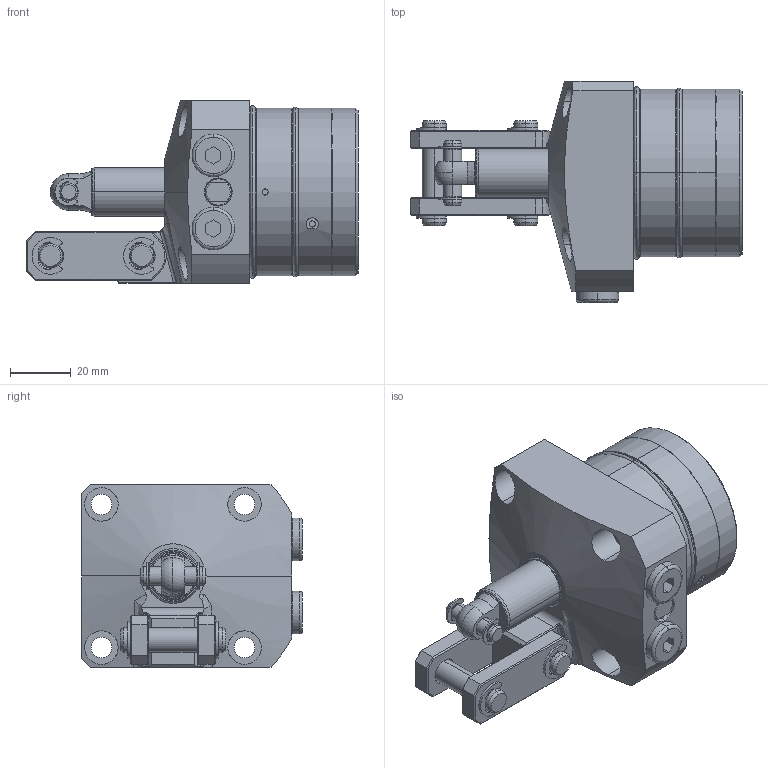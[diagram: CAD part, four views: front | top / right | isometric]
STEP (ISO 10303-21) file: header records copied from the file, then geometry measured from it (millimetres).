
FILE_DESCRIPTION(/* description */ (''),/* implementation_level */ '2;1');
FILE_NAME(/* name */ 'KTPW55-LH.stp',/* time_stamp */ '2022-11-19T16:48:20+08:00',/* author */ (''),/* organization */ (''),/* preprocessor_version */ 'ST-DEVELOPER v16.7',/* originating_system */ 'SIEMENS PLM Software NX 12.0',/* authorisation */ '');
FILE_SCHEMA (('AP203_CONFIGURATION_CONTROLLED_3D_DESIGN_OF_MECHANICAL_PARTS_AND_ASSEMBLIES_MIM_LF { 1 0 10303 403 2 1 2}'));
Length unit declared in the file: millimetre
Products named in the file (11): KTPW55-LH-06; KTPW55-LH-03; KTPW55-LH-01; KTPW55-LH-05; KTPW55-LH-09; KTPW55-LH-010; KTPW55-LH-08; KTPW55-LH-02; KTPW55-LH-04; KTPW55-LH-07; KTPC55-LH_stp
Assembly tree (19 placements, depth 2):
  KTPC55-LH_stp
    KTPW55-LH-07  x4
    KTPW55-LH-04  x2
    KTPW55-LH-02
    KTPW55-LH-08  x2
    KTPW55-LH-010  x3
    KTPW55-LH-09  x2
    KTPW55-LH-05  x2
    KTPW55-LH-01
    KTPW55-LH-03
    KTPW55-LH-06
Bounding box: 109 x 72.5 x 60 mm (x, y, z)
Volume: 194877.3 mm3; surface area: 44351.9 mm2
Topology: 21 solids, 21 shells, 670 faces, 1557 edges, 965 vertices
Faces by surface type: cylinder 262, plane 201, torus 116, cone 80, bspline 9, sphere 2
Full cylindrical faces by diameter (mm): 55 x1
Entity records: 14060 total; most frequent: CARTESIAN_POINT 3085, DIRECTION 2167, ORIENTED_EDGE 1844, EDGE_CURVE 922, AXIS2_PLACEMENT_3D 901, VERTEX_POINT 568, CIRCLE 482, EDGE_LOOP 460
